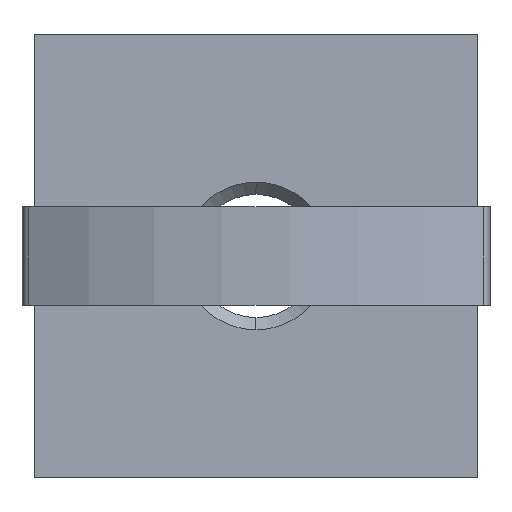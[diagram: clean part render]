
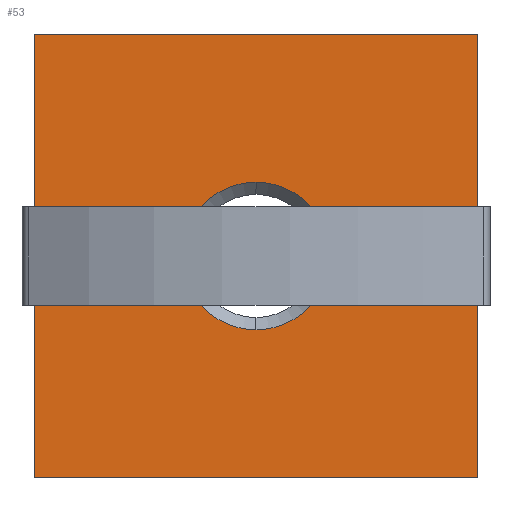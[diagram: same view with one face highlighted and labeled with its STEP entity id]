
A CAD part, front view. The second image highlights one B-rep face of the part: STEP entity #53.
In plain terms, the highlighted planar face has unit normal (0, -1, 0).
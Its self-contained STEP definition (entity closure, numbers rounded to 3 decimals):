
#10 = VERTEX_POINT ( 'NONE', #545 ) ;
#26 = CARTESIAN_POINT ( 'NONE',  ( 0., -2., 3. ) ) ;
#53 = ADVANCED_FACE ( 'NONE', ( #357, #359 ), #461, .F. ) ;
#60 = VECTOR ( 'NONE', #635, 1000. ) ;
#75 = VERTEX_POINT ( 'NONE', #26 ) ;
#89 = CARTESIAN_POINT ( 'NONE',  ( 0., -2., 0. ) ) ;
#95 = CARTESIAN_POINT ( 'NONE',  ( 0., -2., -3. ) ) ;
#101 = CARTESIAN_POINT ( 'NONE',  ( -9., -2., -9. ) ) ;
#141 = ORIENTED_EDGE ( 'NONE', *, *, #920, .F. ) ;
#171 = CARTESIAN_POINT ( 'NONE',  ( 0., -2., 0. ) ) ;
#211 = VERTEX_POINT ( 'NONE', #101 ) ;
#227 = VERTEX_POINT ( 'NONE', #373 ) ;
#233 = EDGE_LOOP ( 'NONE', ( #562, #731, #571, #141 ) ) ;
#272 = EDGE_CURVE ( 'NONE', #75, #308, #643, .T. ) ;
#308 = VERTEX_POINT ( 'NONE', #95 ) ;
#334 = LINE ( 'NONE', #816, #391 ) ;
#345 = ORIENTED_EDGE ( 'NONE', *, *, #710, .T. ) ;
#356 = LINE ( 'NONE', #698, #60 ) ;
#357 = FACE_BOUND ( 'NONE', #393, .T. ) ;
#359 = FACE_OUTER_BOUND ( 'NONE', #233, .T. ) ;
#373 = CARTESIAN_POINT ( 'NONE',  ( -9., -2., 9. ) ) ;
#391 = VECTOR ( 'NONE', #745, 1000. ) ;
#393 = EDGE_LOOP ( 'NONE', ( #345, #512 ) ) ;
#394 = VECTOR ( 'NONE', #614, 1000. ) ;
#398 = DIRECTION ( 'NONE',  ( 0., 0., 1. ) ) ;
#450 = CARTESIAN_POINT ( 'NONE',  ( -9., -2., -9. ) ) ;
#461 = PLANE ( 'NONE',  #892 ) ;
#475 = DIRECTION ( 'NONE',  ( 0., 1., 0. ) ) ;
#499 = LINE ( 'NONE', #894, #579 ) ;
#512 = ORIENTED_EDGE ( 'NONE', *, *, #272, .T. ) ;
#534 = DIRECTION ( 'NONE',  ( 0., 0., 1. ) ) ;
#537 = DIRECTION ( 'NONE',  ( 0., 1., 0. ) ) ;
#545 = CARTESIAN_POINT ( 'NONE',  ( 9., -2., -9. ) ) ;
#561 = EDGE_CURVE ( 'NONE', #211, #227, #865, .T. ) ;
#562 = ORIENTED_EDGE ( 'NONE', *, *, #561, .F. ) ;
#571 = ORIENTED_EDGE ( 'NONE', *, *, #882, .F. ) ;
#579 = VECTOR ( 'NONE', #641, 1000. ) ;
#614 = DIRECTION ( 'NONE',  ( 0., 0., 1. ) ) ;
#622 = DIRECTION ( 'NONE',  ( 0., 1., 0. ) ) ;
#635 = DIRECTION ( 'NONE',  ( 0., 0., -1. ) ) ;
#641 = DIRECTION ( 'NONE',  ( 1., 0., 0. ) ) ;
#643 = CIRCLE ( 'NONE', #902, 3. ) ;
#675 = EDGE_CURVE ( 'NONE', #10, #211, #334, .T. ) ;
#686 = CARTESIAN_POINT ( 'NONE',  ( 9., -2., 9. ) ) ;
#698 = CARTESIAN_POINT ( 'NONE',  ( 9., -2., -9. ) ) ;
#710 = EDGE_CURVE ( 'NONE', #308, #75, #776, .T. ) ;
#731 = ORIENTED_EDGE ( 'NONE', *, *, #675, .F. ) ;
#745 = DIRECTION ( 'NONE',  ( -1., 0., 0. ) ) ;
#776 = CIRCLE ( 'NONE', #879, 3. ) ;
#816 = CARTESIAN_POINT ( 'NONE',  ( -9., -2., -9. ) ) ;
#857 = VERTEX_POINT ( 'NONE', #686 ) ;
#865 = LINE ( 'NONE', #450, #394 ) ;
#878 = DIRECTION ( 'NONE',  ( 0., 0., 1. ) ) ;
#879 = AXIS2_PLACEMENT_3D ( 'NONE', #887, #537, #534 ) ;
#882 = EDGE_CURVE ( 'NONE', #857, #10, #356, .T. ) ;
#887 = CARTESIAN_POINT ( 'NONE',  ( 0., -2., 0. ) ) ;
#892 = AXIS2_PLACEMENT_3D ( 'NONE', #171, #475, #398 ) ;
#894 = CARTESIAN_POINT ( 'NONE',  ( -9., -2., 9. ) ) ;
#902 = AXIS2_PLACEMENT_3D ( 'NONE', #89, #622, #878 ) ;
#920 = EDGE_CURVE ( 'NONE', #227, #857, #499, .T. ) ;
